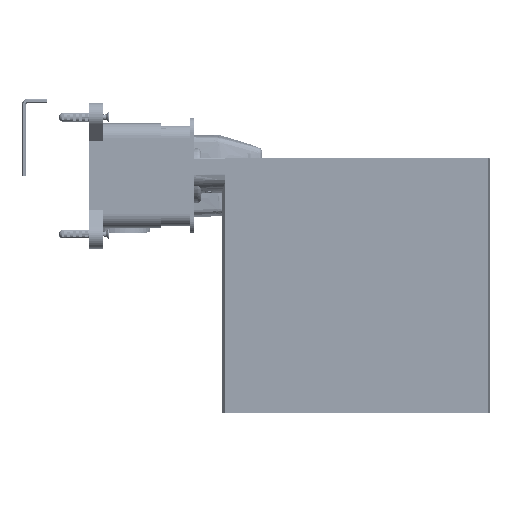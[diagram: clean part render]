
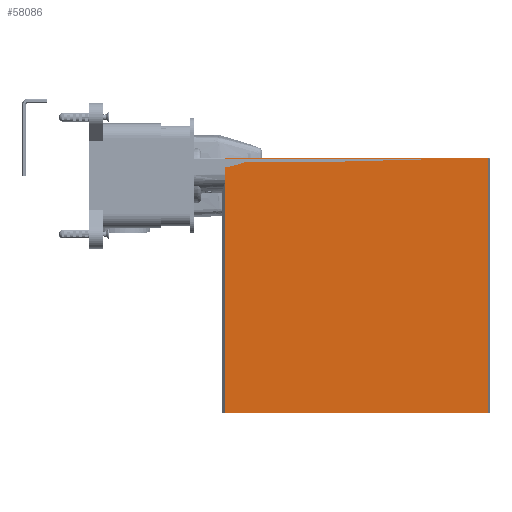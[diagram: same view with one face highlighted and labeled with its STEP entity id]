
A CAD part, front view. The second image highlights one B-rep face of the part: STEP entity #58086.
In plain terms, the highlighted planar face has unit normal (0, -1, 0) as drawn and (0, 0, -1) by its records, which use the part's own axes.
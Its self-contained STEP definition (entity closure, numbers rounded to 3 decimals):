
#57919=DIRECTION('',(1.,0.,0.));
#57920=VECTOR('',#57919,182.371);
#57921=CARTESIAN_POINT('',(-162.871,0.,-22.));
#57922=LINE('',#57921,#57920);
#57955=DIRECTION('',(0.,-1.,0.));
#57956=VECTOR('',#57955,177.);
#57957=CARTESIAN_POINT('',(-162.871,177.,-22.));
#57958=LINE('',#57957,#57956);
#57962=DIRECTION('',(0.,-1.,0.));
#57963=VECTOR('',#57962,177.);
#57964=CARTESIAN_POINT('',(19.5,177.,-22.));
#57965=LINE('',#57964,#57963);
#57992=DIRECTION('',(1.,0.,0.));
#57993=VECTOR('',#57992,182.371);
#57994=CARTESIAN_POINT('',(-162.871,177.,-22.));
#57995=LINE('',#57994,#57993);
#57999=CARTESIAN_POINT('',(19.5,0.,-22.));
#58001=VERTEX_POINT('',#57999);
#58003=CARTESIAN_POINT('',(-162.871,0.,-22.));
#58004=VERTEX_POINT('',#58003);
#58007=CARTESIAN_POINT('',(19.5,177.,-22.));
#58009=VERTEX_POINT('',#58007);
#58011=CARTESIAN_POINT('',(-162.871,177.,-22.));
#58012=VERTEX_POINT('',#58011);
#58074=CARTESIAN_POINT('',(19.5,0.,-22.));
#58075=DIRECTION('',(0.,0.,-1.));
#58076=DIRECTION('',(-1.,0.,0.));
#58077=AXIS2_PLACEMENT_3D('',#58074,#58075,#58076);
#58078=PLANE('',#58077);
#58079=ORIENTED_EDGE('',*,*,#58022,.T.);
#58080=ORIENTED_EDGE('',*,*,#58041,.F.);
#58082=ORIENTED_EDGE('',*,*,#58081,.F.);
#58083=ORIENTED_EDGE('',*,*,#58066,.T.);
#58084=EDGE_LOOP('',(#58079,#58080,#58082,#58083));
#58085=FACE_OUTER_BOUND('',#58084,.F.);
#58022=EDGE_CURVE('',#58004,#58001,#57922,.T.);
#58041=EDGE_CURVE('',#58009,#58001,#57965,.T.);
#58066=EDGE_CURVE('',#58012,#58004,#57958,.T.);
#58081=EDGE_CURVE('',#58012,#58009,#57995,.T.);
#58086=ADVANCED_FACE('',(#58085),#58078,.T.);
